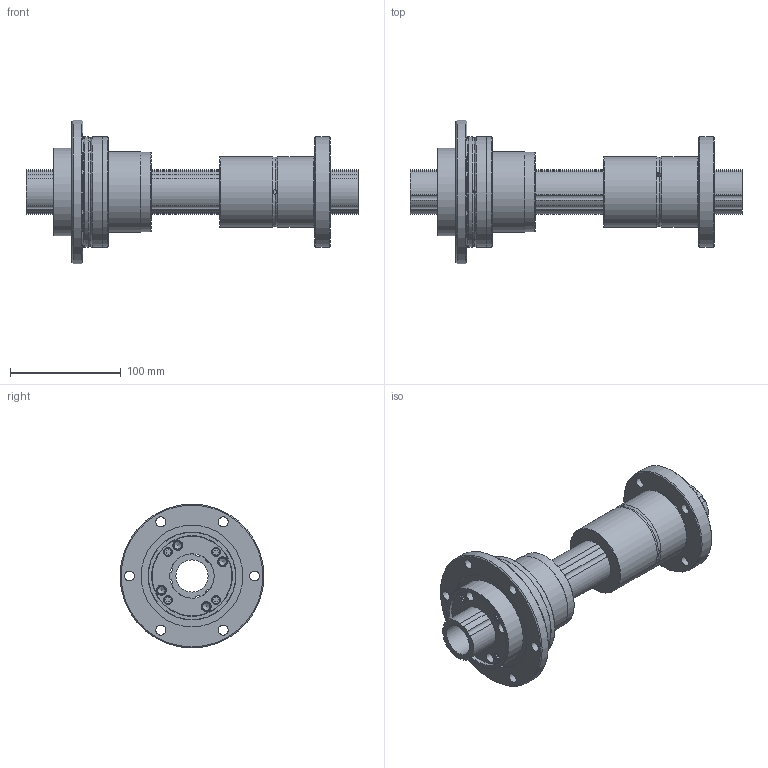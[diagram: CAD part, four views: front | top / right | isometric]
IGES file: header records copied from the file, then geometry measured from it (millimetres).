
Start section: Data from Parasolid IGES Translator 26.0.171, Copyright(c) 2006 Siemens PLM Software. All Rights Reserved.
Global section: file name: NS4040A+300L.igs; native system: By Siemens PLM Incorporated; preprocessor: XPlus GENERIC/IGES 26.0.171; author: Noname; organization: Noname; date: 20250611.084553; units: millimetre
Bounding box: 300 x 130 x 130 mm (x, y, z)
Surface area: 185119.4 mm2 (no closed solid volume)
Topology: 0 solids, 0 shells, 160 faces, 738 edges, 653 vertices
Faces by surface type: revolution 95, extrusion 65
